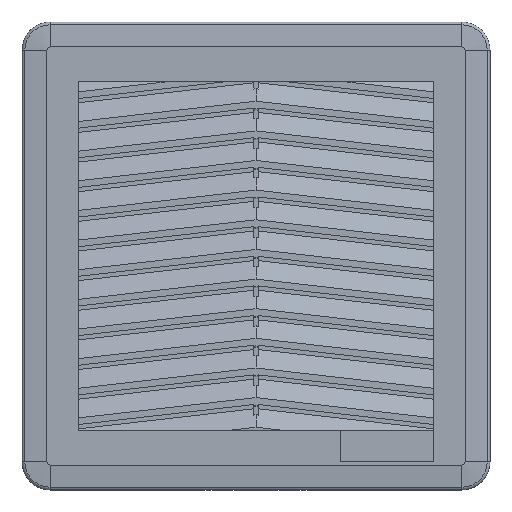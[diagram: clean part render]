
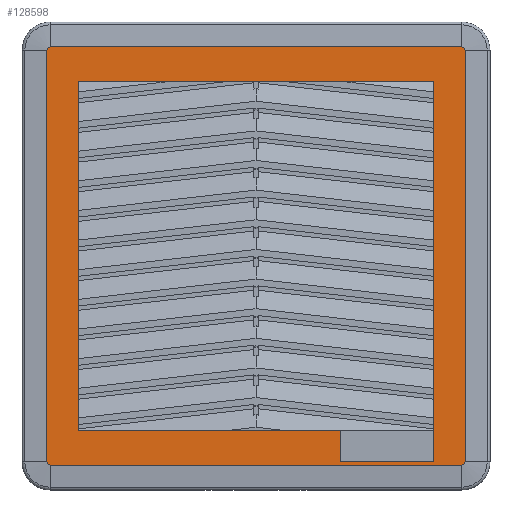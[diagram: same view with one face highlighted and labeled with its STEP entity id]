
A CAD part, front view. The second image highlights one B-rep face of the part: STEP entity #128598.
In plain terms, the highlighted planar face has unit normal (0, -1, 0).
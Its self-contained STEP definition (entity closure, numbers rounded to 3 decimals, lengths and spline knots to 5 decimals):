
#123044=DIRECTION('',(0.,0.,1.));
#123045=VECTOR('',#123044,0.132);
#123046=CARTESIAN_POINT('',(-0.067,-0.0292,-0.0649));
#123047=LINE('',#123046,#123045);
#123065=DIRECTION('',(-1.,0.,0.));
#123066=VECTOR('',#123065,0.132);
#123067=CARTESIAN_POINT('',(0.066,-0.0292,-0.0659));
#123068=LINE('',#123067,#123066);
#123072=DIRECTION('',(0.,0.,-1.));
#123073=VECTOR('',#123072,0.122);
#123074=CARTESIAN_POINT('',(0.057,-0.0292,0.0571));
#123075=LINE('',#123074,#123073);
#123079=DIRECTION('',(1.,0.,0.));
#123080=VECTOR('',#123079,0.114);
#123081=CARTESIAN_POINT('',(-0.057,-0.0292,0.0571));
#123082=LINE('',#123081,#123080);
#123086=DIRECTION('',(0.,0.,1.));
#123087=VECTOR('',#123086,0.112);
#123088=CARTESIAN_POINT('',(-0.057,-0.0292,-0.0549));
#123089=LINE('',#123088,#123087);
#123093=CARTESIAN_POINT('',(0.066,-0.0292,-0.0649));
#123094=DIRECTION('',(0.,-1.,0.));
#123095=DIRECTION('',(0.,0.,-1.));
#123096=AXIS2_PLACEMENT_3D('',#123093,#123094,#123095);
#123101=CARTESIAN_POINT('',(-0.066,-0.0292,-0.0649));
#123102=DIRECTION('',(0.,-1.,0.));
#123103=DIRECTION('',(-1.,0.,0.));
#123104=AXIS2_PLACEMENT_3D('',#123101,#123102,#123103);
#123109=CARTESIAN_POINT('',(-0.066,-0.0292,0.0671));
#123110=DIRECTION('',(0.,-1.,0.));
#123111=DIRECTION('',(0.,0.,1.));
#123112=AXIS2_PLACEMENT_3D('',#123109,#123110,#123111);
#123117=CARTESIAN_POINT('',(0.066,-0.0292,0.0671));
#123118=DIRECTION('',(0.,-1.,0.));
#123119=DIRECTION('',(1.,0.,0.));
#123120=AXIS2_PLACEMENT_3D('',#123117,#123118,#123119);
#123132=DIRECTION('',(1.,0.,0.));
#123133=VECTOR('',#123132,0.03);
#123134=CARTESIAN_POINT('',(0.027,-0.0292,-0.0649));
#123135=LINE('',#123134,#123133);
#125717=DIRECTION('',(1.,0.,0.));
#125718=VECTOR('',#125717,0.084);
#125719=CARTESIAN_POINT('',(-0.057,-0.0292,-0.0549));
#125720=LINE('',#125719,#125718);
#125773=DIRECTION('',(0.,0.,-1.));
#125774=VECTOR('',#125773,0.01);
#125775=CARTESIAN_POINT('',(0.027,-0.0292,-0.0549));
#125776=LINE('',#125775,#125774);
#127444=DIRECTION('',(0.,0.,-1.));
#127445=VECTOR('',#127444,0.132);
#127446=CARTESIAN_POINT('',(0.067,-0.0292,0.0671));
#127447=LINE('',#127446,#127445);
#127465=DIRECTION('',(1.,0.,0.));
#127466=VECTOR('',#127465,0.132);
#127467=CARTESIAN_POINT('',(-0.066,-0.0292,0.0681));
#127468=LINE('',#127467,#127466);
#127665=CARTESIAN_POINT('',(-0.066,-0.0292,0.0681));
#127666=CARTESIAN_POINT('',(-0.067,-0.0292,0.0671));
#127667=VERTEX_POINT('',#127665);
#127668=VERTEX_POINT('',#127666);
#127677=CARTESIAN_POINT('',(0.067,-0.0292,
0.0671));
#127678=CARTESIAN_POINT('',(0.066,-0.0292,
0.0681));
#127679=VERTEX_POINT('',#127677);
#127680=VERTEX_POINT('',#127678);
#127683=CARTESIAN_POINT('',(-0.067,-0.0292,-0.0649));
#127684=VERTEX_POINT('',#127683);
#127689=CARTESIAN_POINT('',(0.066,-0.0292,-0.0659));
#127690=CARTESIAN_POINT('',(-0.066,-0.0292,-0.0659));
#127691=VERTEX_POINT('',#127689);
#127692=VERTEX_POINT('',#127690);
#127695=CARTESIAN_POINT('',(0.027,-0.0292,-0.0649));
#127696=CARTESIAN_POINT('',(0.057,-0.0292,-0.0649));
#127697=VERTEX_POINT('',#127695);
#127698=VERTEX_POINT('',#127696);
#127699=CARTESIAN_POINT('',(0.027,-0.0292,-0.0549));
#127700=VERTEX_POINT('',#127699);
#127701=CARTESIAN_POINT('',(-0.057,-0.0292,-0.0549));
#127702=VERTEX_POINT('',#127701);
#128009=CARTESIAN_POINT('',(-0.057,-0.0292,0.0571));
#128010=CARTESIAN_POINT('',(0.057,-0.0292,0.0571));
#128011=VERTEX_POINT('',#128009);
#128012=VERTEX_POINT('',#128010);
#128295=CARTESIAN_POINT('',(0.067,-0.0292,-0.0649));
#128296=VERTEX_POINT('',#128295);
#128565=CARTESIAN_POINT('',(0.067,-0.0292,-0.0659));
#128566=DIRECTION('',(0.,-1.,0.));
#128567=DIRECTION('',(0.,0.,-1.));
#128568=AXIS2_PLACEMENT_3D('',#128565,#128566,#128567);
#128569=PLANE('',#128568);
#128571=ORIENTED_EDGE('',*,*,#128570,.F.);
#128572=ORIENTED_EDGE('',*,*,#128555,.T.);
#128573=ORIENTED_EDGE('',*,*,#128545,.F.);
#128574=ORIENTED_EDGE('',*,*,#128530,.T.);
#128575=ORIENTED_EDGE('',*,*,#128515,.F.);
#128577=ORIENTED_EDGE('',*,*,#128576,.T.);
#128579=ORIENTED_EDGE('',*,*,#128578,.F.);
#128581=ORIENTED_EDGE('',*,*,#128580,.T.);
#128582=EDGE_LOOP('',(#128571,#128572,#128573,#128574,#128575,#128577,#128579,
#128581));
#128583=FACE_OUTER_BOUND('',#128582,.F.);
#128585=ORIENTED_EDGE('',*,*,#128584,.T.);
#128587=ORIENTED_EDGE('',*,*,#128586,.F.);
#128589=ORIENTED_EDGE('',*,*,#128588,.F.);
#128591=ORIENTED_EDGE('',*,*,#128590,.F.);
#128593=ORIENTED_EDGE('',*,*,#128592,.T.);
#128595=ORIENTED_EDGE('',*,*,#128594,.T.);
#128596=EDGE_LOOP('',(#128585,#128587,#128589,#128591,#128593,#128595));
#128597=FACE_BOUND('',#128596,.F.);
#123097=CIRCLE('',#123096,0.001);
#123105=CIRCLE('',#123104,0.001);
#123113=CIRCLE('',#123112,0.001);
#123121=CIRCLE('',#123120,0.001);
#128515=EDGE_CURVE('',#127667,#127668,#123113,.T.);
#128530=EDGE_CURVE('',#127684,#127668,#123047,.T.);
#128545=EDGE_CURVE('',#127684,#127692,#123105,.T.);
#128555=EDGE_CURVE('',#127691,#127692,#123068,.T.);
#128570=EDGE_CURVE('',#127691,#128296,#123097,.T.);
#128576=EDGE_CURVE('',#127667,#127680,#127468,.T.);
#128578=EDGE_CURVE('',#127679,#127680,#123121,.T.);
#128580=EDGE_CURVE('',#127679,#128296,#127447,.T.);
#128584=EDGE_CURVE('',#127697,#127698,#123135,.T.);
#128586=EDGE_CURVE('',#128012,#127698,#123075,.T.);
#128588=EDGE_CURVE('',#128011,#128012,#123082,.T.);
#128590=EDGE_CURVE('',#127702,#128011,#123089,.T.);
#128592=EDGE_CURVE('',#127702,#127700,#125720,.T.);
#128594=EDGE_CURVE('',#127700,#127697,#125776,.T.);
#128598=ADVANCED_FACE('',(#128583,#128597),#128569,.T.);
